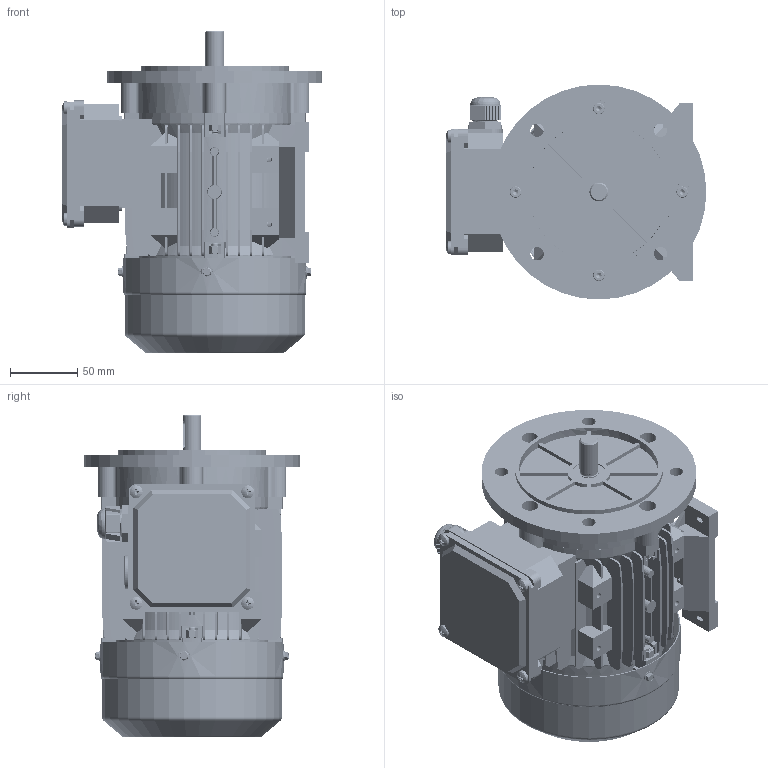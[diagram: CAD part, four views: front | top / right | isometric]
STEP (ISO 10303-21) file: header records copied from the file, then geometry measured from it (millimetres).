
FILE_DESCRIPTION (( 'STEP AP203' ), '1' );
FILE_NAME ('MS71S B35 3D蚾饜芞.STEP', '2024-06-01T08:53:24', ( 'User' ), ( 'China' ), 'SwSTEP 2.0', 'SolidWorks 2018', '' );
FILE_SCHEMA (( 'CONFIG_CONTROL_DESIGN' ));
Length unit declared in the file: millimetre
Products named in the file (23): 8.034.07101MS71 S儂褲; spring lock washers--normal type gb_GB_FASTENER_WASHER_SW 6; pan cross head screw_as_AS-NZS 1427 PC- M5 x 8-S; 8.013.07102MS71綴傷裔; hexagon socket head cap screws gb_GB_FASTENER_SCREWS_HSHCS M6X20-S; 蹟杶郋M20X1.5; 8.200.07101MS71 S蛌粣; MS63-71諉盄碟菁釱; 蹟簸M20X1.5; 8.043.07101MS71菁褐; MS63-71諉盄碟裔; hexagon socket head cap screws gb_GB_FASTENER_SCREWS_HSHCS M5X25-S; hexagon socket head cap screw_as_AS 1420 - M5 x 25-S; 8.014.07102MS71B5傷裔; spring lock washers--normal type gb_GB_FASTENER_WASHER_SW 5; hexagon nut (grades c) as_AS 1112.3 C- M5-S; MS71S B35 3D蚾饜芞; hex nuts, style 1-grades ab gb_GB_FASTENER_NUT_SNAB1 M5-N; 8.306.07101MS71邧脯瑞欶; 蚐猾25X14X4; hex washer head screw_as_AS-NZS 1427 HW - M4 x 6-N; 黑芛20X1.5; pan cross head screw_as_AS-NZS 1427 PC- M4 x 8-S
Assembly tree (52 placements, depth 2):
  MS71S B35 3D蚾饜芞
    8.034.07101MS71 S儂褲
    8.013.07102MS71綴傷裔
    8.200.07101MS71 S蛌粣
    8.043.07101MS71菁褐  x2
    hexagon socket head cap screw_as_AS 1420 - M5 x 25-S  x4
    hexagon nut (grades c) as_AS 1112.3 C- M5-S  x4
    8.306.07101MS71邧脯瑞欶
    hex washer head screw_as_AS-NZS 1427 HW - M4 x 6-N  x4
    pan cross head screw_as_AS-NZS 1427 PC- M4 x 8-S  x4
    pan cross head screw_as_AS-NZS 1427 PC- M5 x 8-S  x4
    蹟杶郋M20X1.5
    蹟簸M20X1.5
    hexagon socket head cap screws gb_GB_FASTENER_SCREWS_HSHCS M5X25-S  x4
    spring lock washers--normal type gb_GB_FASTENER_WASHER_SW 5  x4
    hex nuts, style 1-grades ab gb_GB_FASTENER_NUT_SNAB1 M5-N  x3
    蚐猾25X14X4
    黑芛20X1.5
    spring lock washers--normal type gb_GB_FASTENER_WASHER_SW 6  x4
    hexagon socket head cap screws gb_GB_FASTENER_SCREWS_HSHCS M6X20-S  x4
    MS63-71諉盄碟菁釱
    MS63-71諉盄碟裔
    8.014.07102MS71B5傷裔
Bounding box: 194 x 160 x 240.1 mm (x, y, z)
Volume: 736222.2 mm3; surface area: 508543.7 mm2
Topology: 52 solids, 61 shells, 7033 faces, 16721 edges, 9884 vertices
Faces by surface type: cone 2480, plane 2400, cylinder 1877, bspline 146, torus 114, sphere 16
Entity records: 141156 total; most frequent: CARTESIAN_POINT 44035, ORIENTED_EDGE 20302, DIRECTION 18559, EDGE_CURVE 10151, VERTEX_POINT 6426, AXIS2_PLACEMENT_3D 6329, LINE 5901, VECTOR 5901
